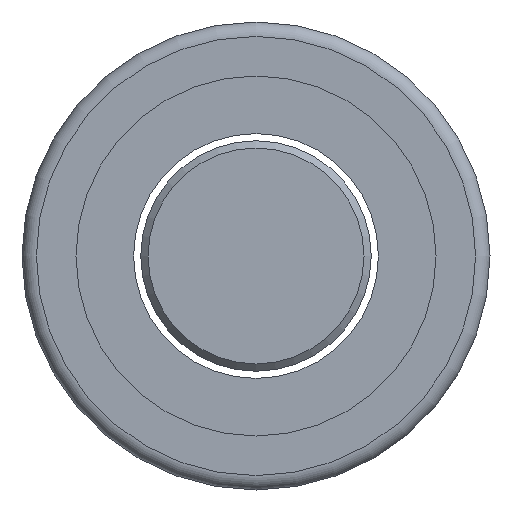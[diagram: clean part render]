
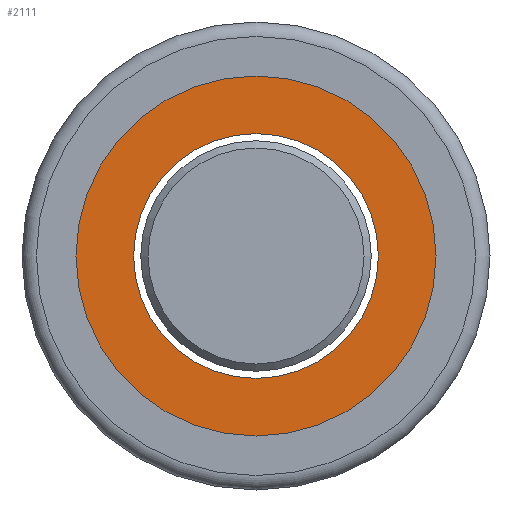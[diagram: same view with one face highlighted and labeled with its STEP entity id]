
A CAD part, left-side view. The second image highlights one B-rep face of the part: STEP entity #2111.
In plain terms, the highlighted planar face has unit normal (-1, 0, 0).
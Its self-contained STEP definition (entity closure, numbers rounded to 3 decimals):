
#217 = CARTESIAN_POINT ( 'NONE',  ( -54., 0., 0. ) ) ;
#222 = AXIS2_PLACEMENT_3D ( 'NONE', #217, #750, #1112 ) ;
#260 = AXIS2_PLACEMENT_3D ( 'NONE', #335, #905, #1836 ) ;
#335 = CARTESIAN_POINT ( 'NONE',  ( -54., 10.75, 0. ) ) ;
#414 = CARTESIAN_POINT ( 'NONE',  ( -54., 0., -13. ) ) ;
#492 = CARTESIAN_POINT ( 'NONE',  ( -54., 0., 0. ) ) ;
#664 = EDGE_CURVE ( 'NONE', #753, #753, #2161, .T. ) ;
#686 = FACE_OUTER_BOUND ( 'NONE', #1860, .T. ) ;
#719 = CIRCLE ( 'NONE', #222, 13. ) ;
#750 = DIRECTION ( 'NONE',  ( 1., 0., 0. ) ) ;
#753 = VERTEX_POINT ( 'NONE', #1159 ) ;
#905 = DIRECTION ( 'NONE',  ( -1., 0., 0. ) ) ;
#1107 = AXIS2_PLACEMENT_3D ( 'NONE', #492, #1227, #1797 ) ;
#1112 = DIRECTION ( 'NONE',  ( 0., 0., -1. ) ) ;
#1159 = CARTESIAN_POINT ( 'NONE',  ( -54., 0., -8.5 ) ) ;
#1227 = DIRECTION ( 'NONE',  ( 1., 0., 0. ) ) ;
#1252 = PLANE ( 'NONE',  #260 ) ;
#1336 = VERTEX_POINT ( 'NONE', #414 ) ;
#1711 = EDGE_LOOP ( 'NONE', ( #1963 ) ) ;
#1750 = ORIENTED_EDGE ( 'NONE', *, *, #2369, .F. ) ;
#1797 = DIRECTION ( 'NONE',  ( 0., 0., -1. ) ) ;
#1836 = DIRECTION ( 'NONE',  ( 0., 0., 1. ) ) ;
#1860 = EDGE_LOOP ( 'NONE', ( #1750 ) ) ;
#1963 = ORIENTED_EDGE ( 'NONE', *, *, #664, .T. ) ;
#2111 = ADVANCED_FACE ( 'NONE', ( #2363, #686 ), #1252, .T. ) ;
#2161 = CIRCLE ( 'NONE', #1107, 8.5 ) ;
#2363 = FACE_BOUND ( 'NONE', #1711, .T. ) ;
#2369 = EDGE_CURVE ( 'NONE', #1336, #1336, #719, .T. ) ;
